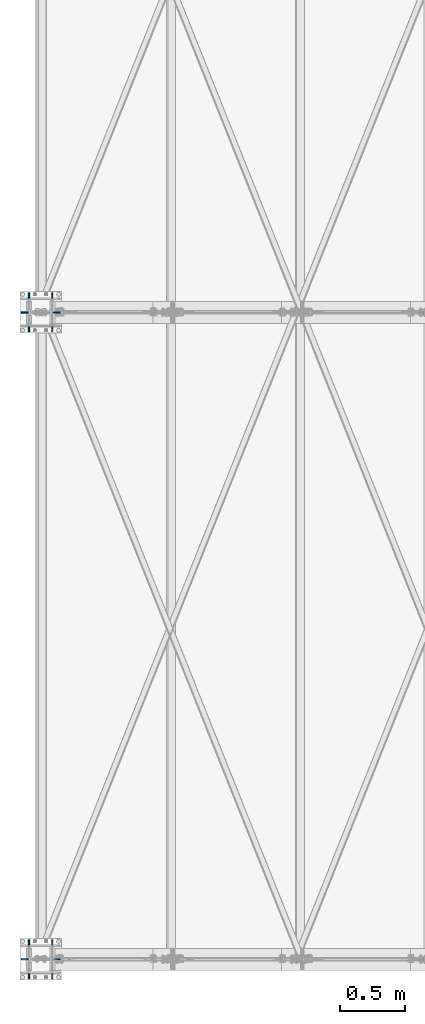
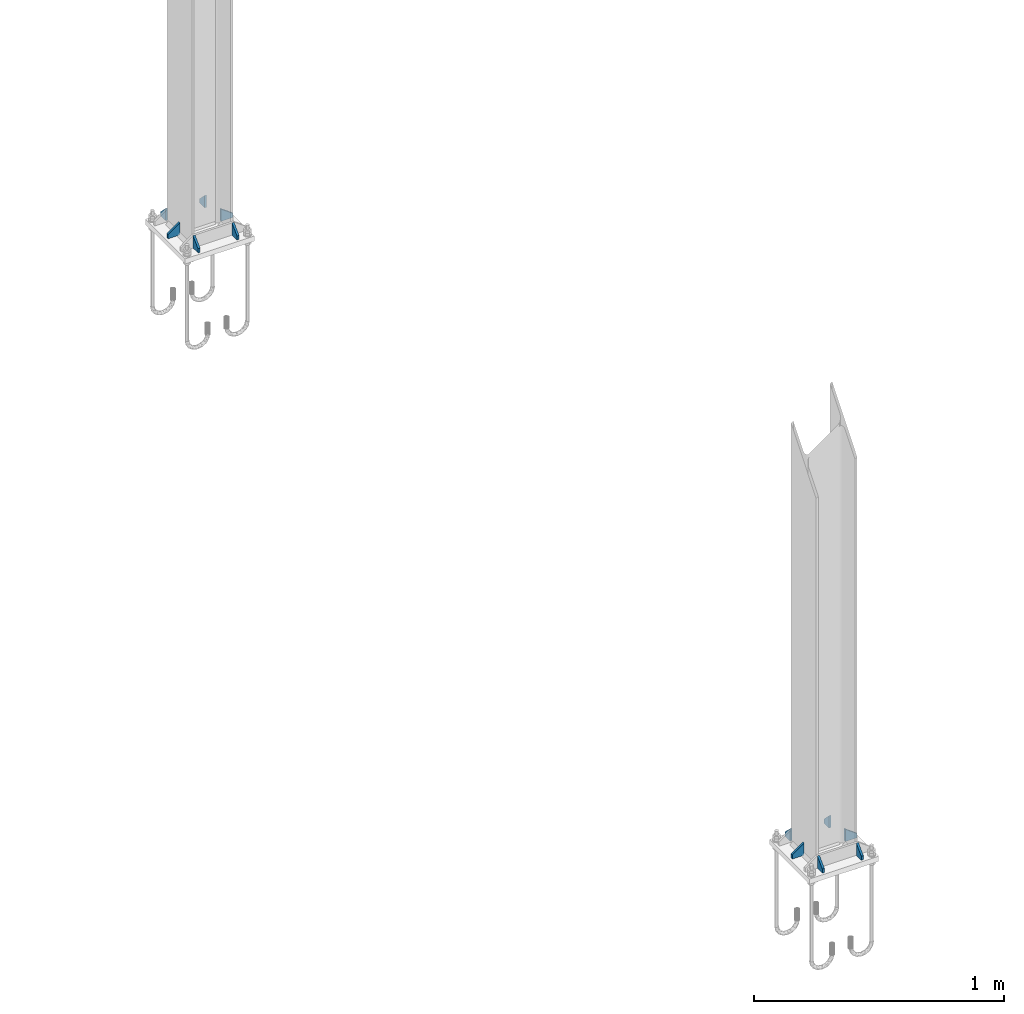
# One storey, part 11 of 251: 12 plates.
"""IFC4 building model written with IfcOpenShell, lengths in metres."""

from ifc_helpers import new_model, si_unit, frame, origin_with_axes, place, context, project, spatial, polyline, outline, extrude, type_object, element, save


model = new_model("IFC4")

# Units and contexts
model_context = context("Model", 3, precision=1e-05, world=origin_with_axes())
ifc_project = project(units=[si_unit("LENGTHUNIT", "METRE"), si_unit("AREAUNIT", "SQUARE_METRE"), si_unit("VOLUMEUNIT", "CUBIC_METRE"), si_unit("MASSUNIT", "GRAM", prefix="KILO"), si_unit("TIMEUNIT", "SECOND"), si_unit("PLANEANGLEUNIT", "RADIAN"), si_unit("SOLIDANGLEUNIT", "STERADIAN"), si_unit("THERMODYNAMICTEMPERATUREUNIT", "DEGREE_CELSIUS")], contexts=[model_context])

# Site, building, storey
placement_1 = place(None, origin_with_axes())
site = spatial("IfcSite", under=ifc_project, at=placement_1, Name="Italia", CompositionType="ELEMENT")
building = spatial("IfcBuilding", under=site, at=placement_1, Name="Deposito", CompositionType="ELEMENT")
storey = spatial("IfcBuildingStorey", under=building, at=placement_1, Name="Storey 0", CompositionType="ELEMENT", Elevation=0.0)

# Plates
plate_type_1 = type_object("IfcPlateType", Name="Collegamenti 0014_-001 0016_-054 0018_-056 0032_-002 0033_-058 0047_-003 0048_-060 0062_-004 0063_-005 0079_-008", PredefinedType="SHEET")
placement_2 = place(placement_1, origin_with_axes())
plate_1_placement = place(placement_2, origin_with_axes())
element("IfcPlate", 1, at=plate_1_placement, inside=storey, type_object=plate_type_1, Name="Collegamenti 0014_-001 0016_-054 0018_-056 0032_-002 0033_-058 0047_-003 0048_-060 0062_-004 0063_-005 0079_-008", context=model_context, shape_type="SweptSolid", body=[
    extrude(outline(polyline([(0.0, 0.0), (0.0, -0.02), (-0.0550003, -0.02), (-0.0550003, 0.04), (0.0, 0.0)])), frame((5.9, -0.005, 0.095), z_axis=(0.0, 1.0, 0.0), x_axis=(-1.0, 0.0, 0.0)), (0.0, 0.0, 1.0), 0.01),
])
plate_type_2 = type_object("IfcPlateType", Name="Collegamenti 0014_-001 0016_-054 0018_-056 0032_-002 0033_-058 0047_-003 0048_-060 0062_-004 0063_-005 0079_-008", PredefinedType="SHEET")
plate_2_placement = place(placement_2, origin_with_axes())
element("IfcPlate", 2, at=plate_2_placement, inside=storey, type_object=plate_type_2, Name="Collegamenti 0014_-001 0016_-054 0018_-056 0032_-002 0033_-058 0047_-003 0048_-060 0062_-004 0063_-005 0079_-008", context=model_context, shape_type="SweptSolid", body=[
    extrude(outline(polyline([(0.0, 0.0), (0.0, 0.02), (0.0550003, 0.06), (0.0550003, 0.0), (0.0, 0.0)])), frame((6.2, -0.005, 0.075), z_axis=(0.0, 1.0, 0.0), x_axis=(-1.0, 0.0, 0.0)), (0.0, 0.0, 1.0), 0.01),
])
plate_type_3 = type_object("IfcPlateType", Name="Collegamenti 0014_-001 0016_-054 0018_-056 0032_-002 0033_-058 0047_-003 0048_-060 0062_-004 0063_-005 0079_-008", PredefinedType="SHEET")
plate_3_placement = place(placement_2, origin_with_axes())
element("IfcPlate", 3, at=plate_3_placement, inside=storey, type_object=plate_type_3, Name="Collegamenti 0014_-001 0016_-054 0018_-056 0032_-002 0033_-058 0047_-003 0048_-060 0062_-004 0063_-005 0079_-008", context=model_context, shape_type="SweptSolid", body=[
    extrude(outline(polyline([(0.0, 0.0), (0.0, -0.02), (-0.04, -0.02), (-0.04, 0.04), (0.0, 0.0)])), frame((5.955, 0.15, 0.095), z_axis=(1.0, 0.0, 0.0), x_axis=(0.0, 1.0, 0.0)), (0.0, 0.0, 1.0), 0.0100002),
])
plate_type_4 = type_object("IfcPlateType", Name="Collegamenti 0014_-001 0016_-054 0018_-056 0032_-002 0033_-058 0047_-003 0048_-060 0062_-004 0063_-005 0079_-008", PredefinedType="SHEET")
plate_4_placement = place(placement_2, origin_with_axes())
element("IfcPlate", 4, at=plate_4_placement, inside=storey, type_object=plate_type_4, Name="Collegamenti 0014_-001 0016_-054 0018_-056 0032_-002 0033_-058 0047_-003 0048_-060 0062_-004 0063_-005 0079_-008", context=model_context, shape_type="SweptSolid", body=[
    extrude(outline(polyline([(0.0, 0.0), (0.0, 0.02), (0.04, 0.06), (0.04, 0.0), (0.0, 0.0)])), frame((5.955, -0.15, 0.075), z_axis=(1.0, 0.0, 0.0), x_axis=(0.0, 1.0, 0.0)), (0.0, 0.0, 1.0), 0.0100002),
])
plate_type_5 = type_object("IfcPlateType", Name="Collegamenti 0014_-001 0016_-054 0018_-056 0032_-002 0033_-058 0047_-003 0048_-060 0062_-004 0063_-005 0079_-008", PredefinedType="SHEET")
plate_5_placement = place(placement_2, origin_with_axes())
element("IfcPlate", 5, at=plate_5_placement, inside=storey, type_object=plate_type_5, Name="Collegamenti 0014_-001 0016_-054 0018_-056 0032_-002 0033_-058 0047_-003 0048_-060 0062_-004 0063_-005 0079_-008", context=model_context, shape_type="SweptSolid", body=[
    extrude(outline(polyline([(0.0, 0.0), (0.0, 0.02), (0.04, 0.06), (0.04, 0.0), (0.0, 0.0)])), frame((6.145, 0.15, 0.075), z_axis=(-1.0, 0.0, 0.0), x_axis=(0.0, -1.0, 0.0)), (0.0, 0.0, 1.0), 0.0100002),
])
plate_type_6 = type_object("IfcPlateType", Name="Collegamenti 0014_-001 0016_-054 0018_-056 0032_-002 0033_-058 0047_-003 0048_-060 0062_-004 0063_-005 0079_-008", PredefinedType="SHEET")
plate_6_placement = place(placement_2, origin_with_axes())
element("IfcPlate", 6, at=plate_6_placement, inside=storey, type_object=plate_type_6, Name="Collegamenti 0014_-001 0016_-054 0018_-056 0032_-002 0033_-058 0047_-003 0048_-060 0062_-004 0063_-005 0079_-008", context=model_context, shape_type="SweptSolid", body=[
    extrude(outline(polyline([(0.0, 0.0), (0.0, -0.02), (-0.04, -0.02), (-0.04, 0.04), (0.0, 0.0)])), frame((6.145, -0.15, 0.095), z_axis=(-1.0, 0.0, 0.0), x_axis=(0.0, -1.0, 0.0)), (0.0, 0.0, 1.0), 0.0100002),
])
plate_type_7 = type_object("IfcPlateType", Name="Collegamenti 0014_-001 0016_-054 0018_-056 0032_-002 0033_-058 0047_-003 0048_-060 0062_-004 0063_-005 0079_-008", PredefinedType="SHEET")
plate_7_placement = place(placement_2, origin_with_axes())
element("IfcPlate", 7, at=plate_7_placement, inside=storey, type_object=plate_type_7, Name="Collegamenti 0014_-001 0016_-054 0018_-056 0032_-002 0033_-058 0047_-003 0048_-060 0062_-004 0063_-005 0079_-008", context=model_context, shape_type="SweptSolid", body=[
    extrude(outline(polyline([(0.0, 0.0), (0.0, -0.02), (-0.0550003, -0.02), (-0.0550003, 0.04), (0.0, 0.0)])), frame((5.9, 4.995, 0.095), z_axis=(0.0, 1.0, 0.0), x_axis=(-1.0, 0.0, 0.0)), (0.0, 0.0, 1.0), 0.0100002),
])
plate_type_8 = type_object("IfcPlateType", Name="Collegamenti 0014_-001 0016_-054 0018_-056 0032_-002 0033_-058 0047_-003 0048_-060 0062_-004 0063_-005 0079_-008", PredefinedType="SHEET")
plate_8_placement = place(placement_2, origin_with_axes())
element("IfcPlate", 8, at=plate_8_placement, inside=storey, type_object=plate_type_8, Name="Collegamenti 0014_-001 0016_-054 0018_-056 0032_-002 0033_-058 0047_-003 0048_-060 0062_-004 0063_-005 0079_-008", context=model_context, shape_type="SweptSolid", body=[
    extrude(outline(polyline([(0.0, 0.0), (0.0, 0.02), (0.0550003, 0.06), (0.0550003, 0.0), (0.0, 0.0)])), frame((6.2, 4.995, 0.075), z_axis=(0.0, 1.0, 0.0), x_axis=(-1.0, 0.0, 0.0)), (0.0, 0.0, 1.0), 0.0100002),
])
plate_type_9 = type_object("IfcPlateType", Name="Collegamenti 0014_-001 0016_-054 0018_-056 0032_-002 0033_-058 0047_-003 0048_-060 0062_-004 0063_-005 0079_-008", PredefinedType="SHEET")
plate_9_placement = place(placement_2, origin_with_axes())
element("IfcPlate", 9, at=plate_9_placement, inside=storey, type_object=plate_type_9, Name="Collegamenti 0014_-001 0016_-054 0018_-056 0032_-002 0033_-058 0047_-003 0048_-060 0062_-004 0063_-005 0079_-008", context=model_context, shape_type="SweptSolid", body=[
    extrude(outline(polyline([(0.0, 0.0), (0.0, -0.02), (-0.04, -0.02), (-0.04, 0.04), (0.0, 0.0)])), frame((5.955, 5.15, 0.095), z_axis=(1.0, 0.0, 0.0), x_axis=(0.0, 1.0, 0.0)), (0.0, 0.0, 1.0), 0.0100002),
])
plate_type_10 = type_object("IfcPlateType", Name="Collegamenti 0014_-001 0016_-054 0018_-056 0032_-002 0033_-058 0047_-003 0048_-060 0062_-004 0063_-005 0079_-008", PredefinedType="SHEET")
plate_10_placement = place(placement_2, origin_with_axes())
element("IfcPlate", 10, at=plate_10_placement, inside=storey, type_object=plate_type_10, Name="Collegamenti 0014_-001 0016_-054 0018_-056 0032_-002 0033_-058 0047_-003 0048_-060 0062_-004 0063_-005 0079_-008", context=model_context, shape_type="SweptSolid", body=[
    extrude(outline(polyline([(0.0, 0.0), (0.0, 0.02), (0.04, 0.06), (0.04, 0.0), (0.0, 0.0)])), frame((5.955, 4.85, 0.075), z_axis=(1.0, 0.0, 0.0), x_axis=(0.0, 1.0, 0.0)), (0.0, 0.0, 1.0), 0.0100002),
])
plate_type_11 = type_object("IfcPlateType", Name="Collegamenti 0014_-001 0016_-054 0018_-056 0032_-002 0033_-058 0047_-003 0048_-060 0062_-004 0063_-005 0079_-008", PredefinedType="SHEET")
plate_11_placement = place(placement_2, origin_with_axes())
element("IfcPlate", 11, at=plate_11_placement, inside=storey, type_object=plate_type_11, Name="Collegamenti 0014_-001 0016_-054 0018_-056 0032_-002 0033_-058 0047_-003 0048_-060 0062_-004 0063_-005 0079_-008", context=model_context, shape_type="SweptSolid", body=[
    extrude(outline(polyline([(0.0, 0.0), (0.0, 0.02), (0.04, 0.06), (0.04, 0.0), (0.0, 0.0)])), frame((6.145, 5.15, 0.075), z_axis=(-1.0, 0.0, 0.0), x_axis=(0.0, -1.0, 0.0)), (0.0, 0.0, 1.0), 0.0100002),
])
plate_type_12 = type_object("IfcPlateType", Name="Collegamenti 0014_-001 0016_-054 0018_-056 0032_-002 0033_-058 0047_-003 0048_-060 0062_-004 0063_-005 0079_-008", PredefinedType="SHEET")
plate_12_placement = place(placement_2, origin_with_axes())
element("IfcPlate", 12, at=plate_12_placement, inside=storey, type_object=plate_type_12, Name="Collegamenti 0014_-001 0016_-054 0018_-056 0032_-002 0033_-058 0047_-003 0048_-060 0062_-004 0063_-005 0079_-008", context=model_context, shape_type="SweptSolid", body=[
    extrude(outline(polyline([(0.0, 0.0), (0.0, -0.02), (-0.04, -0.02), (-0.04, 0.04), (0.0, 0.0)])), frame((6.145, 4.85, 0.095), z_axis=(-1.0, 0.0, 0.0), x_axis=(0.0, -1.0, 0.0)), (0.0, 0.0, 1.0), 0.0100002),
])

save(model, "model.ifc")
